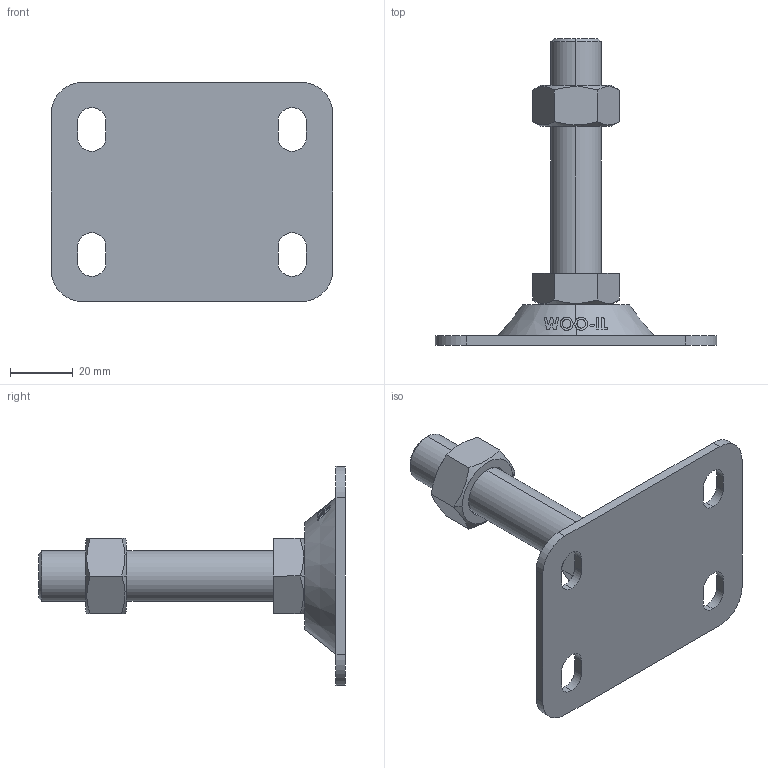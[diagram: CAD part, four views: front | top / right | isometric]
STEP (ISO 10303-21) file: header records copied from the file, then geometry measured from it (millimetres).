
FILE_DESCRIPTION (( 'STEP AP214' ), '1' );
FILE_NAME ('FABL7090-M16-75.step', '2021-03-28T23:52:18', ( '' ), ( '' ), 'SwSTEP 2.0', 'SolidWorks 2019', '' );
FILE_SCHEMA (( 'AUTOMOTIVE_DESIGN' ));
Length unit declared in the file: millimetre
Products named in the file (2): FABL7090-M16-75
Bounding box: 90 x 98 x 70 mm (x, y, z)
Volume: 55107.2 mm3; surface area: 20570 mm2
Topology: 2 solids, 2 shells, 146 faces, 384 edges, 252 vertices
Faces by surface type: plane 58, cylinder 48, cone 22, bspline 18
Entity records: 6084 total; most frequent: CARTESIAN_POINT 2656, ORIENTED_EDGE 768, DIRECTION 582, EDGE_CURVE 384, VERTEX_POINT 252, AXIS2_PLACEMENT_3D 210, EDGE_LOOP 166, VECTOR 162
